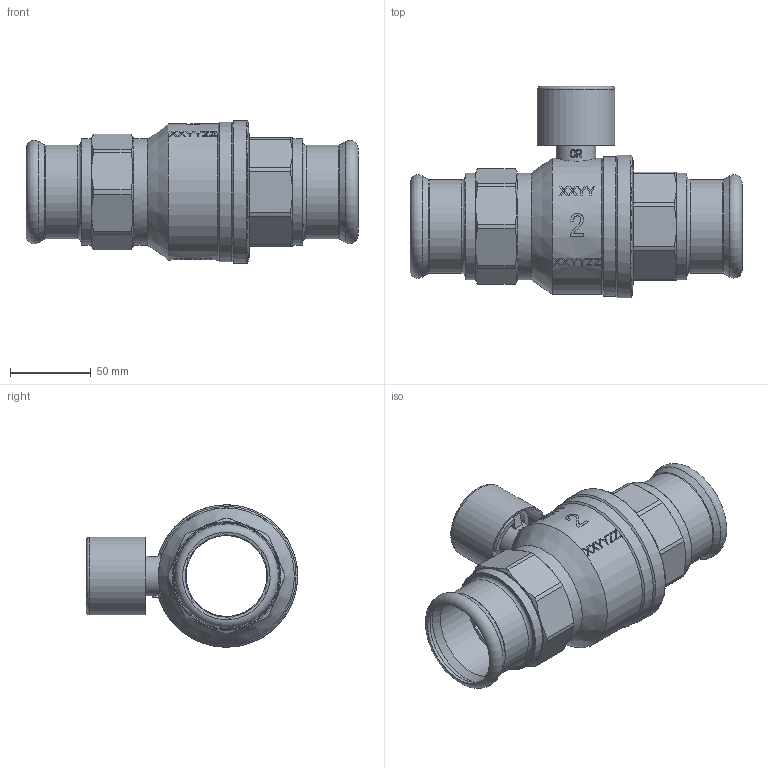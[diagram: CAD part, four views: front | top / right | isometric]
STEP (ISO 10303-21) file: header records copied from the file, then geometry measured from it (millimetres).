
FILE_DESCRIPTION((''),'2;1');
FILE_NAME('P:\Fastrack\53972_CRANE 3D\Press Fit\D171A\Lockshield\54MM\D171ALS-PF-54MM.stp','2011-11-22T09:21:48',('dcole'),(''),'Autodesk Inventor 2008','Autodesk Inventor 2008','');
FILE_SCHEMA(('AUTOMOTIVE_DESIGN { 1 0 10303 214 1 1 1 1 }'));
Length unit declared in the file: millimetre
Products named in the file (1): D171ALS-PF-54MM
Bounding box: 205 x 130.51 x 88 mm (x, y, z)
Volume: 384454.9 mm3; surface area: 118697.5 mm2
Topology: 1 solids, 1 shells, 897 faces, 2463 edges, 1635 vertices
Faces by surface type: plane 465, bspline 237, cylinder 108, cone 79, torus 8
Full cylindrical faces by diameter (mm): 3 x2, 14 x1, 14.1 x2, 14.5 x1, 18 x1, 18.3 x1, 18.5 x2, 24.5 x1, 32.2 x1, 34 x2, 40 x2, 46 x1, 48 x1, 50 x5, 54 x4, 56.656 x2, 58 x2, 65.8 x2, 66 x1, 84 x1, 86 x1, 88 x1
Entity records: 61889 total; most frequent: CARTESIAN_POINT 40789, ORIENTED_EDGE 4696, DIRECTION 3496, EDGE_CURVE 2348, VERTEX_POINT 1603, VECTOR 1244, LINE 1244, AXIS2_PLACEMENT_3D 1126
